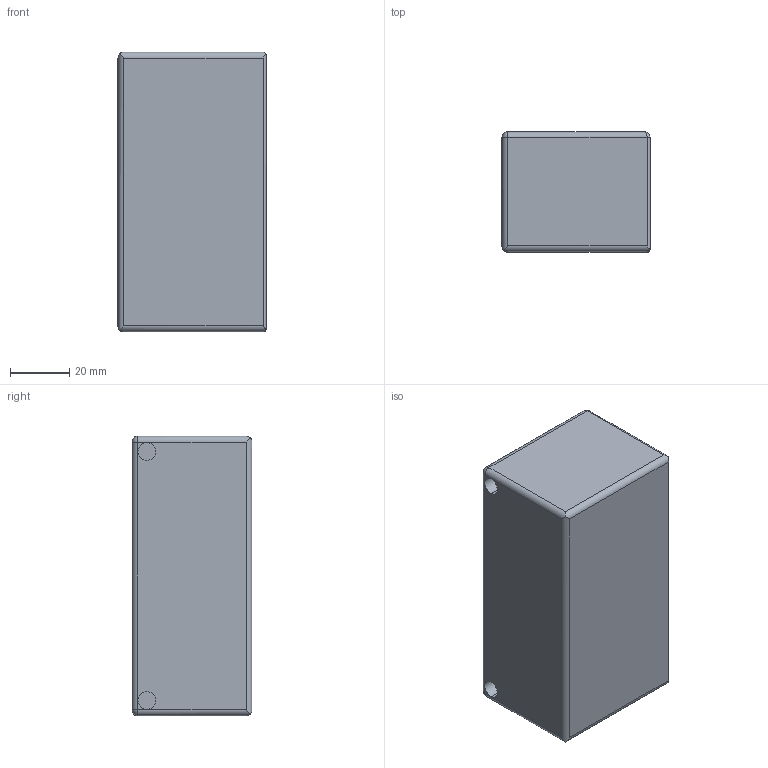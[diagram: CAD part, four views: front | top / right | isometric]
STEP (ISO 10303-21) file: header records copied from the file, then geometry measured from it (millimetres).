
FILE_DESCRIPTION( (''), '2;1');
FILE_NAME ('CVICAD02.288.YS6A1_11729.stp','2020-08-31T10:48:08',(''),(''),'spGate 12.6.6','','');
FILE_SCHEMA (('AUTOMOTIVE_DESIGN'));
Length unit declared in the file: millimetre
Bounding box: 50 x 40.5 x 94.4 mm (x, y, z)
Volume: 188554.9 mm3; surface area: 21969.9 mm2
Topology: 1 solids, 1 shells, 28 faces, 68 edges, 38 vertices
Faces by surface type: cylinder 16, plane 8, bspline 2, sphere 2
Entity records: 1497 total; most frequent: CARTESIAN_POINT 360, ORIENTED_EDGE 128, DIRECTION 114, COLOUR_RGB 93, PRESENTATION_STYLE_ASSIGNMENT 93, STYLED_ITEM 93, EDGE_CURVE 64, DRAUGHTING_PRE_DEFINED_CURVE_FONT 64
